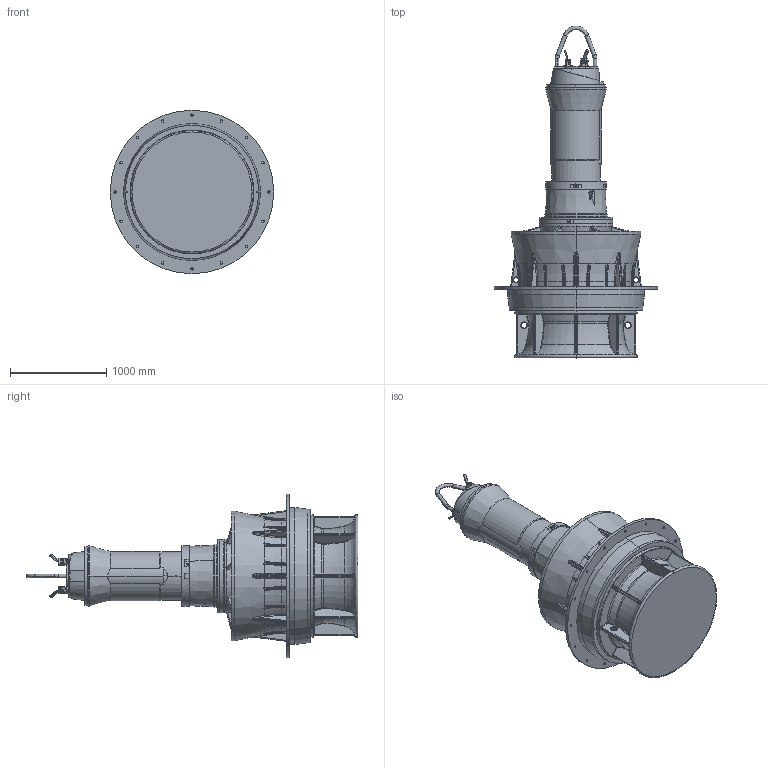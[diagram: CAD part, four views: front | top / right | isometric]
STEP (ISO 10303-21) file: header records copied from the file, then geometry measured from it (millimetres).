
FILE_DESCRIPTION (( 'STEP AP214' ), '1' );
FILE_NAME ('PE6_VUPX1200 G3_FU_A_NG2.STEP', '2017-04-24T11:04:51', ( '' ), ( '' ), 'SwSTEP 2.0', 'SolidWorks 2017', '' );
FILE_SCHEMA (( 'AUTOMOTIVE_DESIGN' ));
Length unit declared in the file: millimetre
Products named in the file (1): PE6_VUPX1200 G3_FU_A_NG2
Bounding box: 1702 x 3457 x 1702 mm (x, y, z)
Volume: 1942805879.7 mm3; surface area: 17402514 mm2
Topology: 4 solids, 20 shells, 2924 faces, 7055 edges, 4141 vertices
Faces by surface type: bspline 862, plane 713, cylinder 704, torus 336, cone 235, sphere 74
Entity records: 167188 total; most frequent: CARTESIAN_POINT 73729, ORIENTED_EDGE 13902, DIRECTION 11307, EDGE_CURVE 6951, AXIS2_PLACEMENT_3D 4583, VERTEX_POINT 4141, EDGE_LOOP 3094, UNCERTAINTY_MEASURE_WITH_UNIT 2930
